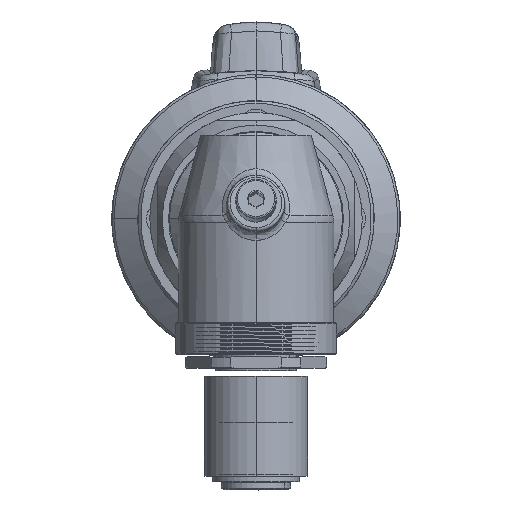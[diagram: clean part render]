
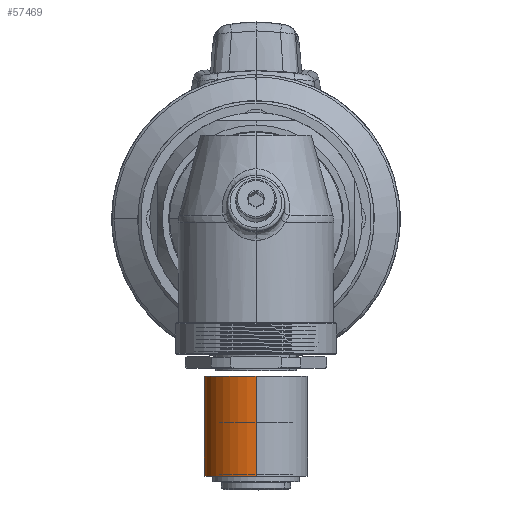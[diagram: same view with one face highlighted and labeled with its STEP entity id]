
A CAD part, left-side view. The second image highlights one B-rep face of the part: STEP entity #57469.
In plain terms, the highlighted cylindrical face has radius 9 mm (diameter 18 mm), a partial arc.
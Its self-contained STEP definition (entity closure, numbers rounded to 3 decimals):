
#5772 = EDGE_CURVE ( 'NONE', #133309, #19927, #18503, .T. ) ;
#11062 = CARTESIAN_POINT ( 'NONE',  ( -144.217, 0., -27.3 ) ) ;
#13665 = EDGE_CURVE ( 'NONE', #71264, #115134, #99501, .T. ) ;
#15451 = DIRECTION ( 'NONE',  ( 0., 0., 1. ) ) ;
#18503 = LINE ( 'NONE', #79186, #106806 ) ;
#19927 = VERTEX_POINT ( 'NONE', #95732 ) ;
#30661 = AXIS2_PLACEMENT_3D ( 'NONE', #140463, #137369, #30723 ) ;
#30723 = DIRECTION ( 'NONE',  ( 1., 0., 0. ) ) ;
#31615 = CARTESIAN_POINT ( 'NONE',  ( -135.217, 0., -27.3 ) ) ;
#38716 = AXIS2_PLACEMENT_3D ( 'NONE', #31615, #58050, #79065 ) ;
#39506 = VECTOR ( 'NONE', #15451, 1000. ) ;
#43426 = DIRECTION ( 'NONE',  ( 0., 0., 1. ) ) ;
#54355 = ORIENTED_EDGE ( 'NONE', *, *, #60410, .F. ) ;
#55459 = AXIS2_PLACEMENT_3D ( 'NONE', #143670, #82964, #60412 ) ;
#57469 = ADVANCED_FACE ( 'NONE', ( #89881 ), #114800, .T. ) ;
#58050 = DIRECTION ( 'NONE',  ( 0., 0., -1. ) ) ;
#60410 = EDGE_CURVE ( 'NONE', #71264, #133309, #77763, .T. ) ;
#60412 = DIRECTION ( 'NONE',  ( -1., 0., 0. ) ) ;
#63259 = CARTESIAN_POINT ( 'NONE',  ( -144.217, 0., -44.6 ) ) ;
#63472 = CIRCLE ( 'NONE', #38716, 9. ) ;
#63587 = ORIENTED_EDGE ( 'NONE', *, *, #5772, .F. ) ;
#71264 = VERTEX_POINT ( 'NONE', #63259 ) ;
#76535 = ORIENTED_EDGE ( 'NONE', *, *, #13665, .T. ) ;
#77763 = CIRCLE ( 'NONE', #55459, 9. ) ;
#79065 = DIRECTION ( 'NONE',  ( -1., 0., 0. ) ) ;
#79186 = CARTESIAN_POINT ( 'NONE',  ( -126.217, 0., -44.6 ) ) ;
#82964 = DIRECTION ( 'NONE',  ( 0., 0., -1. ) ) ;
#89881 = FACE_OUTER_BOUND ( 'NONE', #122449, .T. ) ;
#95732 = CARTESIAN_POINT ( 'NONE',  ( -126.217, 0., -27.3 ) ) ;
#99179 = CARTESIAN_POINT ( 'NONE',  ( -126.217, 0., -44.6 ) ) ;
#99501 = LINE ( 'NONE', #145455, #39506 ) ;
#106806 = VECTOR ( 'NONE', #43426, 1000. ) ;
#114800 = CYLINDRICAL_SURFACE ( 'NONE', #30661, 9. ) ;
#115134 = VERTEX_POINT ( 'NONE', #11062 ) ;
#122449 = EDGE_LOOP ( 'NONE', ( #152835, #63587, #54355, #76535 ) ) ;
#133309 = VERTEX_POINT ( 'NONE', #99179 ) ;
#137369 = DIRECTION ( 'NONE',  ( 0., 0., -1. ) ) ;
#140463 = CARTESIAN_POINT ( 'NONE',  ( -135.217, 0., -26.435 ) ) ;
#143670 = CARTESIAN_POINT ( 'NONE',  ( -135.217, 0., -44.6 ) ) ;
#145455 = CARTESIAN_POINT ( 'NONE',  ( -144.217, 0., -44.6 ) ) ;
#150002 = EDGE_CURVE ( 'NONE', #115134, #19927, #63472, .T. ) ;
#152835 = ORIENTED_EDGE ( 'NONE', *, *, #150002, .T. ) ;
